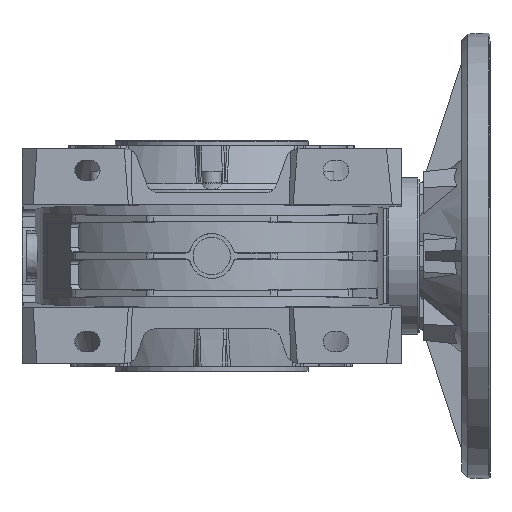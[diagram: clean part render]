
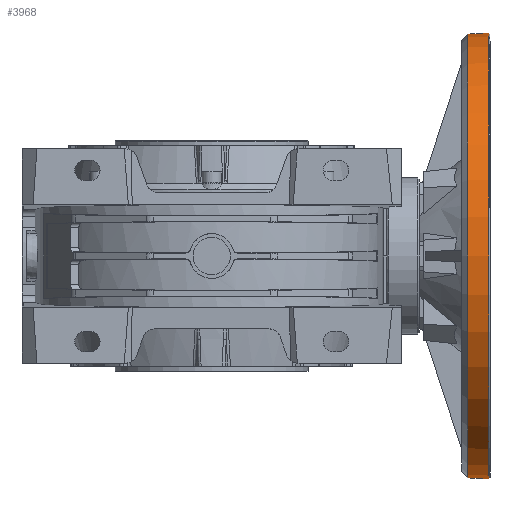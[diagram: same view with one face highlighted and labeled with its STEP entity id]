
A CAD part, front view. The second image highlights one B-rep face of the part: STEP entity #3968.
In plain terms, the highlighted conical face has half-angle 3 degrees and reference radius 150 mm.
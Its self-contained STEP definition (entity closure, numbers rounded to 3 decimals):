
#3968 = ADVANCED_FACE( '', ( #8664, #8665 ), #8666, .T. );
#8664 = FACE_OUTER_BOUND( '', #19279, .T. );
#8665 = FACE_BOUND( '', #19280, .T. );
#8666 = CONICAL_SURFACE( '', #19281, 150., 0.052 );
#19279 = EDGE_LOOP( '', ( #32331 ) );
#19280 = EDGE_LOOP( '', ( #32332 ) );
#19281 = AXIS2_PLACEMENT_3D( '', #32333, #32334, #32335 );
#32331 = ORIENTED_EDGE( '', *, *, #35996, .T. );
#32332 = ORIENTED_EDGE( '', *, *, #40607, .T. );
#32333 = CARTESIAN_POINT( '', ( 189., 110., 0. ) );
#32334 = DIRECTION( '', ( 1., 0., 0. ) );
#32335 = DIRECTION( '', ( 0., -1., 0. ) );
#35996 = EDGE_CURVE( '', #41462, #41462, #41463, .T. );
#40607 = EDGE_CURVE( '', #48522, #48522, #48523, .T. );
#41462 = VERTEX_POINT( '', #49681 );
#41463 = CIRCLE( '', #49682, 149.843 );
#48522 = VERTEX_POINT( '', #69437 );
#48523 = CIRCLE( '', #69438, 149.109 );
#49681 = CARTESIAN_POINT( '', ( 186.001, 259.843, 0. ) );
#49682 = AXIS2_PLACEMENT_3D( '', #70942, #70943, #70944 );
#69437 = CARTESIAN_POINT( '', ( 171.995, 259.109, 0. ) );
#69438 = AXIS2_PLACEMENT_3D( '', #75859, #75860, #75861 );
#70942 = CARTESIAN_POINT( '', ( 186.001, 110., 0. ) );
#70943 = DIRECTION( '', ( -1., 0., 0. ) );
#70944 = DIRECTION( '', ( 0., 1., 0. ) );
#75859 = CARTESIAN_POINT( '', ( 171.995, 110., 0. ) );
#75860 = DIRECTION( '', ( 1., 0., 0. ) );
#75861 = DIRECTION( '', ( 0., 1., 0. ) );
